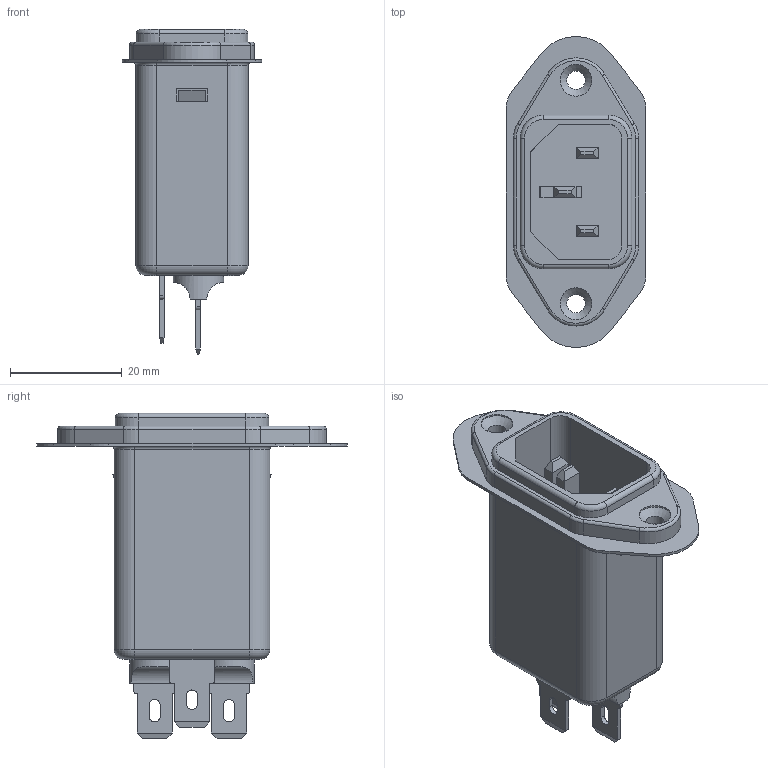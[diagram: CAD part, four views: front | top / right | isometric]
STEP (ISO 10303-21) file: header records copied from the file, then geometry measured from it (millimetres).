
FILE_DESCRIPTION((''),'2;1');
FILE_NAME('D:\_ PRODUCT\FN_PART_FOR_FN9222-XX-07\FN_UPDATE\DB_06 version_Update\3D_inventer\234-176C\FN9222U-XX-06.stp','2012-01-13T08:50:13',('sayan.penton'),(''),'Autodesk Inventor 2010','Autodesk Inventor 2010','');
FILE_SCHEMA(('AUTOMOTIVE_DESIGN { 1 0 10303 214 1 1 1 1 }'));
Length unit declared in the file: millimetre
Products named in the file (1): Part1
Bounding box: 25 x 55.6 x 58.2 mm (x, y, z)
Volume: 8572.9 mm3; surface area: 18769.3 mm2
Topology: 1 solids, 3 shells, 603 faces, 1645 edges, 1054 vertices
Faces by surface type: plane 419, cylinder 137, bspline 27, torus 18, cone 2
Full cylindrical faces by diameter (mm): 3.3 x2, 4 x2, 5.7 x2, 9 x2, 9.5 x2
Entity records: 20028 total; most frequent: CARTESIAN_POINT 3965, ORIENTED_EDGE 3262, DIRECTION 3092, EDGE_CURVE 1631, VECTOR 1292, LINE 1292, VERTEX_POINT 1052, AXIS2_PLACEMENT_3D 900
